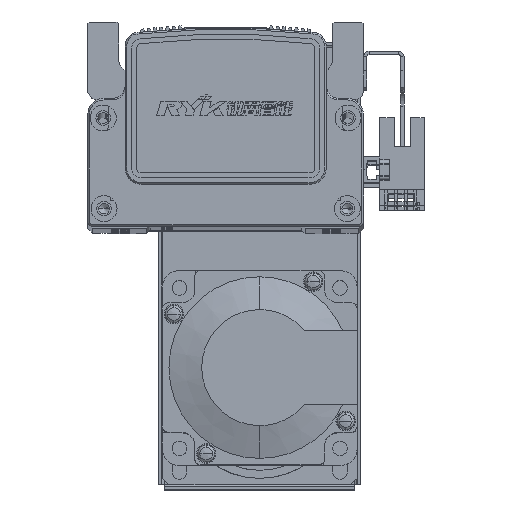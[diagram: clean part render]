
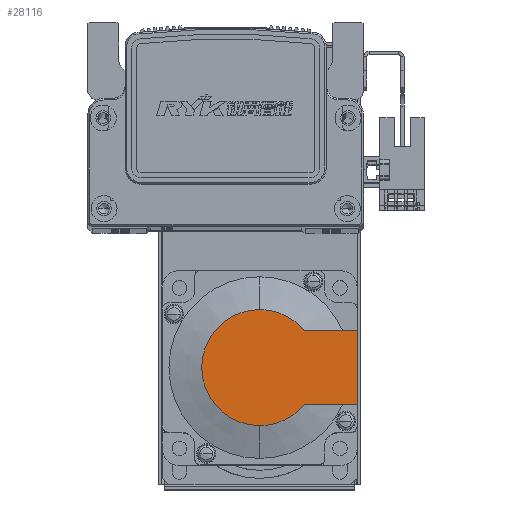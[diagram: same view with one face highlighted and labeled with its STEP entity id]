
A CAD part, top view. The second image highlights one B-rep face of the part: STEP entity #28116.
In plain terms, the highlighted planar face has unit normal (0, 0, 1) as drawn and (-1, 0, 0) by its records, which use the part's own axes.
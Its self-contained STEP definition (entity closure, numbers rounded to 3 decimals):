
#867 = VERTEX_POINT ( 'NONE', #42759 ) ;
#893 = VERTEX_POINT ( 'NONE', #42764 ) ;
#960 = VERTEX_POINT ( 'NONE', #42890 ) ;
#1097 = VERTEX_POINT ( 'NONE', #43209 ) ;
#1111 = VERTEX_POINT ( 'NONE', #43198 ) ;
#1123 = VERTEX_POINT ( 'NONE', #43215 ) ;
#8616 = DIRECTION ( 'NONE',  ( -1., 0., 0. ) ) ;
#8627 = DIRECTION ( 'NONE',  ( 0., 0., 1. ) ) ;
#8652 = CARTESIAN_POINT ( 'NONE',  ( -99., -8.941, 0. ) ) ;
#8701 = PLANE ( 'NONE',  #20807 ) ;
#10888 = FACE_OUTER_BOUND ( 'NONE', #43160, .T. ) ;
#20807 = AXIS2_PLACEMENT_3D ( 'NONE', #8652, #8616, #8627 ) ;
#27418 = CIRCLE ( 'NONE', #37382, 17.881 ) ;
#27517 = CIRCLE ( 'NONE', #37370, 17.881 ) ;
#28116 = ADVANCED_FACE ( 'NONE', ( #10888 ), #8701, .T. ) ;
#30375 = DIRECTION ( 'NONE',  ( -1., 0., 0. ) ) ;
#30442 = CARTESIAN_POINT ( 'NONE',  ( -99., 0., 0. ) ) ;
#30448 = DIRECTION ( 'NONE',  ( 0., 0., -1. ) ) ;
#30825 = CARTESIAN_POINT ( 'NONE',  ( -99., 0., 0. ) ) ;
#30855 = DIRECTION ( 'NONE',  ( -1., 0., 0. ) ) ;
#30858 = DIRECTION ( 'NONE',  ( 0., 0., -1. ) ) ;
#36050 = CIRCLE ( 'NONE', #37461, 17.881 ) ;
#36172 = LINE ( 'NONE', #37881, #36180 ) ;
#36180 = VECTOR ( 'NONE', #37898, 1000. ) ;
#36227 = VECTOR ( 'NONE', #37913, 1000. ) ;
#36240 = LINE ( 'NONE', #37923, #36255 ) ;
#36244 = LINE ( 'NONE', #37944, #36227 ) ;
#36255 = VECTOR ( 'NONE', #37946, 1000. ) ;
#37370 = AXIS2_PLACEMENT_3D ( 'NONE', #30825, #30855, #30858 ) ;
#37382 = AXIS2_PLACEMENT_3D ( 'NONE', #30442, #30375, #30448 ) ;
#37461 = AXIS2_PLACEMENT_3D ( 'NONE', #37725, #37760, #37720 ) ;
#37720 = DIRECTION ( 'NONE',  ( 0., 0., -1. ) ) ;
#37725 = CARTESIAN_POINT ( 'NONE',  ( -99., 0., 0. ) ) ;
#37760 = DIRECTION ( 'NONE',  ( -1., 0., 0. ) ) ;
#37881 = CARTESIAN_POINT ( 'NONE',  ( -99., -8.941, -11.45 ) ) ;
#37898 = DIRECTION ( 'NONE',  ( 0., -1., 0. ) ) ;
#37913 = DIRECTION ( 'NONE',  ( 0., 0., 1. ) ) ;
#37923 = CARTESIAN_POINT ( 'NONE',  ( -99., 0., 11.45 ) ) ;
#37944 = CARTESIAN_POINT ( 'NONE',  ( -99., 30., 25. ) ) ;
#37946 = DIRECTION ( 'NONE',  ( 0., -1., 0. ) ) ;
#42759 = CARTESIAN_POINT ( 'NONE',  ( -99., 0., -17.881 ) ) ;
#42764 = CARTESIAN_POINT ( 'NONE',  ( -99., 13.735, 11.45 ) ) ;
#42890 = CARTESIAN_POINT ( 'NONE',  ( -99., 0., 17.881 ) ) ;
#43160 = EDGE_LOOP ( 'NONE', ( #72415, #72436, #72483, #72531, #72475, #72525 ) ) ;
#43198 = CARTESIAN_POINT ( 'NONE',  ( -99., 30., -11.45 ) ) ;
#43209 = CARTESIAN_POINT ( 'NONE',  ( -99., 13.735, -11.45 ) ) ;
#43215 = CARTESIAN_POINT ( 'NONE',  ( -99., 30., 11.45 ) ) ;
#66105 = EDGE_CURVE ( 'NONE', #867, #960, #27418, .T. ) ;
#66165 = EDGE_CURVE ( 'NONE', #960, #893, #27517, .T. ) ;
#66661 = EDGE_CURVE ( 'NONE', #1097, #867, #36050, .T. ) ;
#66713 = EDGE_CURVE ( 'NONE', #1111, #1097, #36172, .T. ) ;
#66730 = EDGE_CURVE ( 'NONE', #1111, #1123, #36244, .T. ) ;
#66734 = EDGE_CURVE ( 'NONE', #1123, #893, #36240, .T. ) ;
#72415 = ORIENTED_EDGE ( 'NONE', *, *, #66713, .T. ) ;
#72436 = ORIENTED_EDGE ( 'NONE', *, *, #66661, .T. ) ;
#72475 = ORIENTED_EDGE ( 'NONE', *, *, #66734, .F. ) ;
#72483 = ORIENTED_EDGE ( 'NONE', *, *, #66105, .T. ) ;
#72525 = ORIENTED_EDGE ( 'NONE', *, *, #66730, .F. ) ;
#72531 = ORIENTED_EDGE ( 'NONE', *, *, #66165, .T. ) ;
